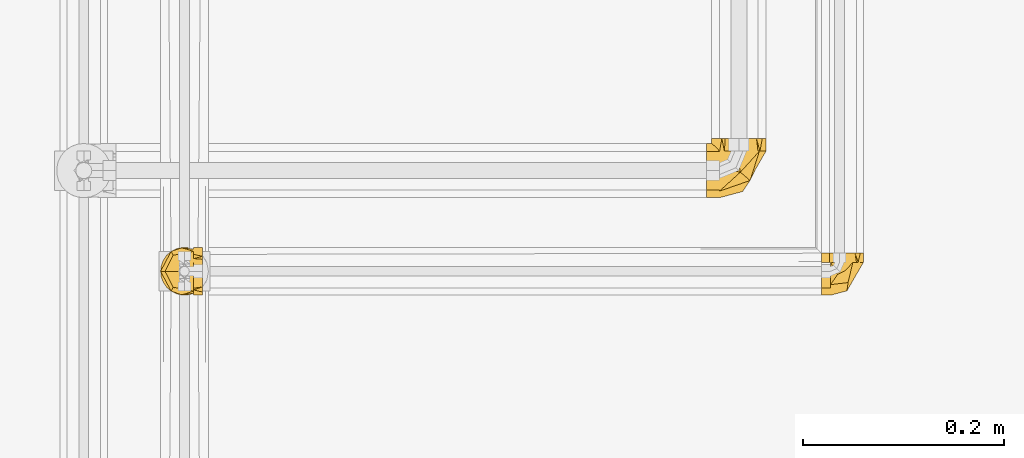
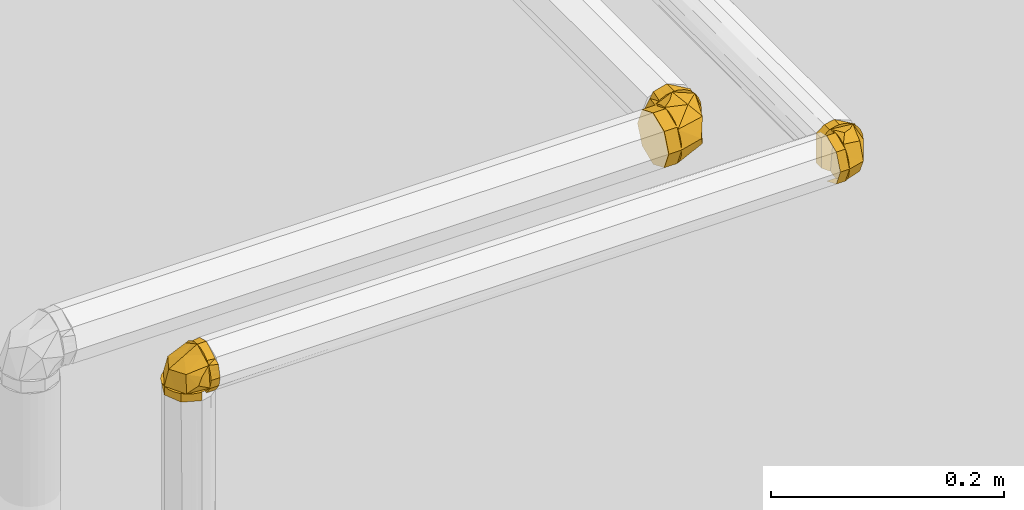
# One storey, part 329 of 652: 3 coverings.
"""IFC2X3 building model written with IfcOpenShell, lengths in millimetres."""

from ifc_helpers import new_model, entity, si_unit, converted_unit, direction, frame, origin, place, context, subcontext, project, spatial, face_set, surface_model, material, type_object, element, save


model = new_model("IFC2X3")

# Units and contexts
model_context = context("Model", 3, precision=0.01, world=frame((0.0, 0.0, 308426.39999999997)), true_north=direction((6.123233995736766e-17, 1.0)))
plan_context = context("Plan", 3, precision=0.01, world=frame((0.0, 0.0, 308426.39999999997)), true_north=direction((6.123233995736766e-17, 1.0)))
body_context = subcontext(model_context, "Body", "Model", "MODEL_VIEW")
ifc_project = project(units=[si_unit("LENGTHUNIT", "METRE", prefix="MILLI"), si_unit("AREAUNIT", "SQUARE_METRE"), si_unit("VOLUMEUNIT", "CUBIC_METRE"), converted_unit("PLANEANGLEUNIT", "DEGREE", entity("IfcPlaneAngleMeasure", 0.017453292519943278), si_unit("PLANEANGLEUNIT", "RADIAN"), dimensions=[0, 0, 0, 0, 0, 0, 0])], contexts=[model_context, plan_context])

# Site, building, storey
site_placement = place(None, origin())
site = spatial("IfcSite", under=ifc_project, at=site_placement, Name="Default", CompositionType="ELEMENT")
building_placement = place(site_placement, origin())
building = spatial("IfcBuilding", under=site, at=building_placement, CompositionType="ELEMENT")
storey_placement = place(building_placement, frame((0.0, 0.0, 1730.6999999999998)))
storey = spatial("IfcBuildingStorey", under=building, at=storey_placement, Name="EG_Produktion_FFB", CompositionType="ELEMENT", Elevation=1730.6999999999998)

# Coverings
ifc_material = material(Name="Dämmung - Armaflex-Schlauch")
covering_type = type_object("IfcCoveringType", Name="Rohrdämmung außen:Armaflex-Schlauch", PredefinedType="INSULATION")
covering_1_placement = place(storey_placement, frame((27956.694571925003, 55699.373068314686, 3271.467227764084)))
element("IfcCovering", 1, at=covering_1_placement, inside=storey, type_object=covering_type, material=ifc_material, Name="Rohrdämmung außen:Armaflex-Schlauch", ObjectType="Rohrdämmung außen:Armaflex-Schlauch", PredefinedType="INSULATION", context=body_context, shape_type="SurfaceModel", body=[
    surface_model("IfcFaceBasedSurfaceModel", [(12.766250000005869, 47.750272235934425, 9.656421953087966), (12.766250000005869, 42.79223424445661, 5.678961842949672), (12.766250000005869, 37.040242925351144, 2.9739802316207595), (12.766250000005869, 30.81456370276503, 1.6920879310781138), (12.766250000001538, 24.461836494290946, 1.904659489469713), (12.766250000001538, 18.3357751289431, 3.599859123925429), (12.766250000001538, 12.777472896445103, 6.683299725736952), (12.766250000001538, 8.096410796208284, 10.983298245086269), (12.766250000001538, 4.553225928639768, 16.26043484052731), (12.766250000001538, 2.345199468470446, 22.220883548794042), (12.766250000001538, 1.5952722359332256, 28.53277223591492), (12.766250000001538, 2.345199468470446, 34.844660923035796), (12.766250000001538, 4.553225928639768, 40.80510963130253), (12.766250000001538, 8.096410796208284, 46.08224622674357), (12.766250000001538, 12.777472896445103, 50.38224474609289), (12.766250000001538, 18.3357751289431, 53.46568534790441), (12.766250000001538, 24.461836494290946, 55.16088498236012), (12.766250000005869, 30.81456370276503, 55.373456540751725), (12.766250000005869, 37.040242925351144, 54.09156424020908), (12.766250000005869, 42.79223424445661, 51.38658262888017), (12.766250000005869, 47.750272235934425, 47.409122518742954), (17.72428799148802, 47.750272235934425, 5.678961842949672), (23.476279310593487, 47.750272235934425, 2.9739802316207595), (29.701958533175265, 47.750272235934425, 1.6920879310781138), (36.05468574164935, 47.750272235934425, 1.904659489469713), (42.180747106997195, 47.750272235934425, 3.599859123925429), (47.739049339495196, 47.750272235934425, 6.683299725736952), (52.420111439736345, 47.75027223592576, 10.983298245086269), (55.96329630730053, 47.75027223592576, 16.26043484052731), (58.17132276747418, 47.75027223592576, 22.220883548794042), (58.92125000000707, 47.75027223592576, 28.53277223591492), (58.17132276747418, 47.75027223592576, 34.844660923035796), (55.96329630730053, 47.75027223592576, 40.80510963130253), (52.420111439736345, 47.75027223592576, 46.08224622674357), (47.739049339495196, 47.750272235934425, 50.38224474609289), (42.180747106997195, 47.750272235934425, 53.46568534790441), (36.05468574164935, 47.750272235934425, 55.16088498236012), (29.701958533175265, 47.750272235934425, 55.373456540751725), (23.476279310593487, 47.750272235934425, 54.09156424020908), (17.72428799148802, 47.750272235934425, 51.38658262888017), (22.709224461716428, 39.07123100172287, 2.2761438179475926), (35.84330649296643, 7.780117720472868, 28.53268068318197), (12.765645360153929, 19.45382377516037, 6.337523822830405), (33.56437582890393, 26.951040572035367, 3.599900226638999), (43.184718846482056, 18.672476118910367, 14.285294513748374), (48.37742514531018, 29.485769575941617, 28.53268068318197), (41.06159262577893, 47.74977104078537, 6.337523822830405), (43.184718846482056, 18.672476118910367, 42.78006685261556), (33.56437582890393, 26.951040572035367, 53.46546113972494), (22.709224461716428, 39.07123100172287, 54.789217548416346), (41.06159262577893, 47.74977104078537, 50.72783754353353), (12.765645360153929, 19.45382377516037, 50.72783754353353), (0.0, 1.5952722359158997, 28.532772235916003), (0.0, 3.567725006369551, 33.29469446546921), (0.0, 5.54017777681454, 38.05661669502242), (0.0, 7.512630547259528, 42.818538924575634), (0.0, 9.485083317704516, 47.58046115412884), (0.0, 14.247005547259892, 49.552913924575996), (0.0, 19.008927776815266, 51.52536669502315), (0.0, 23.770850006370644, 53.49781946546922), (0.0, 28.532772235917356, 55.470272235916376), (0.0, 33.29469446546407, 53.49781946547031), (0.0, 38.05661669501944, 51.52536669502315), (0.0, 42.81853892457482, 49.552913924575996), (0.0, 47.5804611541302, 47.58046115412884), (0.0, 49.552913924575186, 42.818538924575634), (0.0, 51.525366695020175, 38.05661669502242), (0.0, 53.497819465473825, 33.29469446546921), (0.0, 55.47027223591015, 28.532772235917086), (0.0, 53.49781946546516, 23.770850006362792), (0.0, 51.525366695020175, 19.008927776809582), (0.0, 49.552913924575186, 14.247005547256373), (0.0, 47.5804611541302, 9.485083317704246), (0.0, 42.81853892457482, 7.512630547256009), (0.0, 38.05661669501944, 5.5401777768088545), (0.0, 33.29469446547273, 3.567725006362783), (0.0, 28.532772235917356, 1.595272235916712), (0.0, 23.77085000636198, 3.567725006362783), (0.0, 19.008927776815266, 5.5401777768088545), (0.0, 14.247005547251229, 7.512630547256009), (0.0, 9.485083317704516, 9.485083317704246), (0.0, 7.512630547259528, 14.247005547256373), (0.0, 5.54017777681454, 19.008927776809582), (0.0, 3.567725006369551, 23.770850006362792), (12.766250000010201, 1.5952722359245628, 28.532772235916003), (12.766250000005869, 3.567725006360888, 23.770850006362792), (12.766250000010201, 5.54017777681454, 19.008927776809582), (12.766250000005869, 7.512630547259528, 14.24700554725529), (12.766250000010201, 9.48508331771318, 9.485083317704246), (12.766250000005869, 15.253472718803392, 7.095738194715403), (12.766250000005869, 21.02186211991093, 4.7063930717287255), (12.766250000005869, 28.532772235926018, 1.595272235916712), (12.766250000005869, 33.29469446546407, 3.567725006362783), (12.766250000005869, 38.05661669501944, 5.540177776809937), (12.766249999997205, 42.81853892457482, 7.512630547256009), (12.766250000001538, 47.58046115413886, 9.485083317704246), (12.766250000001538, 49.96980627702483, 15.25347271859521), (12.766250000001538, 52.35915139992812, 21.021862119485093), (12.766250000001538, 55.47027223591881, 28.532772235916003), (12.766250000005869, 53.497819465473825, 33.29469446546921), (12.766250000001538, 51.525366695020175, 38.05661669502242), (12.766250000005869, 49.552913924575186, 42.81853892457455), (12.766250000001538, 47.58046115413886, 47.58046115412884), (12.766250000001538, 41.8120717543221, 49.96980627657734), (12.766250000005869, 36.043682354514, 52.35915139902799), (12.766250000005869, 28.532772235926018, 55.470272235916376), (12.766250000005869, 23.77085000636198, 53.49781946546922), (12.766250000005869, 19.008927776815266, 51.52536669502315), (12.766250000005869, 14.247005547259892, 49.552913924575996), (12.766250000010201, 9.48508331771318, 47.58046115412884), (12.766250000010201, 7.095738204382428, 41.81207177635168), (12.766250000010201, 4.706393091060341, 36.043682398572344), (58.92125000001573, 60.51652223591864, 28.532772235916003), (55.554062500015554, 60.516522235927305, 22.700632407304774), (52.18687500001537, 60.516522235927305, 16.868492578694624), (48.819687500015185, 60.51652223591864, 11.036352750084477), (45.45250000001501, 60.51652223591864, 5.204212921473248), (38.718125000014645, 60.51652223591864, 3.3997425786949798), (31.98375000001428, 60.51652223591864, 1.595272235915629), (26.151610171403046, 60.516522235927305, 4.962459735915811), (20.319470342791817, 60.516522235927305, 8.329647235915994), (14.487330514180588, 60.516522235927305, 11.696834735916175), (8.655190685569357, 60.51652223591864, 15.064022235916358), (6.85072034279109, 60.51652223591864, 21.798397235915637), (5.046250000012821, 60.51652223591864, 28.532772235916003), (8.413437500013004, 60.516522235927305, 34.36491206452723), (11.780625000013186, 60.516522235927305, 40.197051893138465), (15.147812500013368, 60.51652223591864, 46.02919172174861), (18.51500000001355, 60.51652223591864, 51.86133155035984), (25.249375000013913, 60.51652223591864, 53.66580189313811), (31.98375000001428, 60.51652223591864, 55.470272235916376), (37.81588982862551, 60.51652223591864, 52.10308473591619), (43.64802965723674, 60.516522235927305, 48.73589723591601), (49.480169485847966, 60.51652223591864, 45.36870973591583), (55.3123093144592, 60.51652223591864, 42.00152223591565), (57.116779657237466, 60.51652223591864, 35.26714723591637), (27.221827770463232, 47.75027223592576, 53.49781946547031), (22.459905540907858, 47.75027223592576, 51.52536669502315), (17.697983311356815, 47.75027223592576, 49.552913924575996), (12.936061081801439, 47.75027223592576, 47.58046115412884), (10.96360831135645, 47.75027223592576, 42.818538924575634), (8.99115554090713, 47.75027223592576, 38.05661669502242), (7.01870277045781, 47.75027223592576, 33.29469446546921), (5.046250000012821, 47.75027223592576, 28.532772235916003), (7.018702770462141, 47.75027223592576, 23.770850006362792), (8.99115554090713, 47.75027223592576, 19.008927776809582), (10.96360831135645, 47.75027223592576, 14.247005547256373), (12.936061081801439, 47.75027223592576, 9.485083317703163), (17.697983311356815, 47.75027223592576, 7.512630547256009), (22.459905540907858, 47.75027223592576, 5.5401777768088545), (27.221827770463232, 47.750272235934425, 3.567725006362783), (31.98375000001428, 47.75027223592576, 1.595272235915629), (36.74567222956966, 47.75027223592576, 3.5677250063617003), (41.507594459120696, 47.75027223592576, 5.5401777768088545), (46.26951668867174, 47.75027223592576, 7.512630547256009), (51.03143891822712, 47.75027223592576, 9.485083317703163), (53.003891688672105, 47.75027223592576, 14.247005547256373), (54.97634445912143, 47.75027223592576, 19.008927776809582), (56.948797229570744, 47.75027223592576, 23.770850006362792), (58.921250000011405, 47.75027223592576, 28.532772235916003), (56.948797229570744, 47.75027223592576, 33.29469446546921), (54.97634445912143, 47.75027223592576, 38.05661669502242), (53.003891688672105, 47.75027223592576, 42.818538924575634), (51.03143891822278, 47.75027223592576, 47.58046115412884), (46.26951668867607, 47.75027223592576, 49.552913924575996), (41.507594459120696, 47.75027223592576, 51.52536669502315), (36.74567222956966, 47.75027223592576, 53.49781946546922), (31.98375000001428, 47.75027223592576, 55.470272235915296)], [face_set([[[0, 1, 2, 3, 4, 5, 6, 7, 8, 9, 10, 11, 12, 13, 14, 15, 16, 17, 18, 19]], [[20, 21, 22, 23, 24, 25, 26, 27, 28, 29, 30, 31, 32, 33, 34, 35, 36, 37, 38, 39]], [[0, 40, 3]], [[10, 7, 41]], [[42, 3, 43]], [[40, 43, 3]], [[23, 40, 0]], [[7, 43, 44]], [[45, 41, 44]], [[7, 44, 41]], [[27, 30, 45]], [[45, 44, 27]], [[43, 27, 44]], [[43, 23, 46]], [[43, 7, 42]], [[23, 43, 40]], [[46, 27, 43]], [[13, 10, 41]], [[33, 47, 45]], [[45, 30, 33]], [[48, 47, 33]], [[49, 48, 37]], [[48, 50, 37]], [[45, 47, 41]], [[20, 49, 37]], [[47, 48, 13]], [[17, 49, 20]], [[41, 47, 13]], [[48, 17, 51]], [[48, 33, 50]], [[17, 48, 49]], [[51, 13, 48]]]), face_set([[[52, 53, 54, 55, 56, 57, 58, 59, 60, 61, 62, 63, 64, 65, 66, 67, 68, 69, 70, 71, 72, 73, 74, 75, 76, 77, 78, 79, 80, 81, 82, 83]], [[84, 85, 86, 87, 88, 89, 90, 91, 92, 93, 94, 95, 96, 97, 98, 99, 100, 101, 102, 103, 104, 105, 106, 107, 108, 109, 110, 111]], [[111, 110, 109, 56, 55, 54, 53, 52, 84]], [[56, 109, 108, 107, 106, 105, 60, 59, 58, 57]], [[104, 103, 102, 64, 63, 62, 61, 60, 105]], [[64, 102, 101, 100, 99, 98, 68, 67, 66, 65]], [[97, 96, 95, 72, 71, 70, 69, 68, 98]], [[72, 95, 94, 93, 92, 91, 76, 75, 74, 73]], [[90, 89, 88, 80, 79, 78, 77, 76, 91]], [[80, 88, 87, 86, 85, 84, 52, 83, 82, 81]]]), face_set([[[112, 113, 114, 115, 116, 117, 118, 119, 120, 121, 122, 123, 124, 125, 126, 127, 128, 129, 130, 131, 132, 133, 134, 135]], [[136, 137, 138, 139, 140, 141, 142, 143, 144, 145, 146, 147, 148, 149, 150, 151, 152, 153, 154, 155, 156, 157, 158, 159, 160, 161, 162, 163, 164, 165, 166, 167]], [[146, 121, 147]], [[118, 150, 119]], [[150, 149, 119]], [[123, 145, 144]], [[144, 143, 124]], [[121, 146, 122]], [[120, 149, 148]], [[118, 151, 150]], [[149, 120, 119]], [[124, 123, 144]], [[148, 147, 121]], [[146, 145, 122]], [[123, 122, 145]], [[120, 148, 121]], [[154, 115, 155]], [[112, 158, 113]], [[158, 157, 113]], [[117, 153, 152]], [[152, 151, 118]], [[115, 154, 116]], [[114, 157, 156]], [[112, 159, 158]], [[157, 114, 113]], [[118, 117, 152]], [[156, 155, 115]], [[154, 153, 116]], [[117, 116, 153]], [[114, 156, 115]], [[162, 133, 163]], [[130, 166, 131]], [[166, 165, 131]], [[135, 161, 160]], [[160, 159, 112]], [[133, 162, 134]], [[132, 165, 164]], [[130, 167, 166]], [[165, 132, 131]], [[112, 135, 160]], [[164, 163, 133]], [[162, 161, 134]], [[135, 134, 161]], [[132, 164, 133]], [[138, 127, 139]], [[124, 142, 125]], [[142, 141, 125]], [[129, 137, 136]], [[136, 167, 130]], [[127, 138, 128]], [[126, 141, 140]], [[124, 143, 142]], [[141, 126, 125]], [[130, 129, 136]], [[140, 139, 127]], [[138, 137, 128]], [[129, 128, 137]], [[126, 140, 127]]])]),
])
covering_2_placement = place(storey_placement, frame((28069.28940103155, 55602.54806831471, 3274.642227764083)))
element("IfcCovering", 2, at=covering_2_placement, inside=storey, type_object=covering_type, material=ifc_material, Name="Rohrdämmung außen:Armaflex-Schlauch", ObjectType="Rohrdämmung außen:Armaflex-Schlauch", PredefinedType="INSULATION", context=body_context, shape_type="SurfaceModel", body=[
    surface_model("IfcFaceBasedSurfaceModel", [(10.45842089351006, 34.28827223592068, 3.337268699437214), (10.45842089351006, 28.691896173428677, 1.8303409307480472), (10.45842089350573, 22.897179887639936, 1.72301199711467), (10.45842089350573, 17.248839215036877, 3.0216666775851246), (10.45842089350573, 12.082882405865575, 5.64905065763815), (10.458420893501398, 7.706621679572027, 9.448866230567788), (10.458420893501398, 4.380391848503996, 14.195070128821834), (10.458420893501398, 2.3020635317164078, 19.605320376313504), (10.458420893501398, 1.5952722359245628, 25.35777223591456), (10.458420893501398, 2.3020635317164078, 31.110224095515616), (10.458420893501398, 4.380391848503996, 36.52047434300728), (10.458420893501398, 7.706621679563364, 41.26667824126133), (10.45842089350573, 12.082882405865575, 45.06649381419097), (10.45842089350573, 17.248839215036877, 47.693877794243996), (10.45842089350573, 22.897179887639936, 48.992532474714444), (10.45842089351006, 28.691896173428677, 48.88520354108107), (10.45842089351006, 34.28827223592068, 47.3782757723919), (16.054796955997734, 34.28827223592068, 1.8303409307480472), (21.849513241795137, 34.28827223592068, 1.72301199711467), (27.497853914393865, 34.28827223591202, 3.0216666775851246), (32.663810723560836, 34.28827223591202, 5.64905065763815), (37.04007144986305, 34.28827223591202, 9.448866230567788), (40.36630128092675, 34.28827223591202, 14.195070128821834), (42.444629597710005, 34.28827223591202, 19.605320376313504), (43.15142089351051, 34.28827223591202, 25.35777223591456), (42.444629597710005, 34.28827223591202, 31.110224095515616), (40.36630128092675, 34.28827223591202, 36.52047434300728), (37.04007144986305, 34.28827223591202, 41.26667824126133), (32.663810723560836, 34.28827223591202, 45.06649381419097), (27.497853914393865, 34.28827223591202, 47.693877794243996), (21.849513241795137, 34.28827223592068, 48.992532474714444), (16.054796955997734, 34.28827223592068, 48.88520354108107), (25.365500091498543, 26.168044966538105, 2.9985803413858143), (27.879300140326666, 14.150173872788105, 9.499346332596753), (21.433181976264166, 34.28847953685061, 4.479885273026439), (10.459433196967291, 6.778530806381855, 15.617577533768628), (26.804947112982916, 5.973928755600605, 25.35768068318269), (37.90659506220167, 34.28847953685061, 15.503631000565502), (35.60673544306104, 21.219509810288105, 25.35768068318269), (17.53807089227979, 22.224099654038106, 2.1399118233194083), (10.459433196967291, 23.186831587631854, 4.493256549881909), (25.365500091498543, 26.168044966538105, 47.71678102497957), (17.53807089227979, 22.224099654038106, 48.57544954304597), (27.879300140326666, 14.150173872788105, 41.21659639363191), (10.459433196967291, 6.778530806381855, 35.097783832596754), (21.433181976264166, 34.28847953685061, 46.23605745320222), (37.96938192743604, 34.28847953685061, 35.097783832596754), (34.97886679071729, 20.131204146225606, 25.35768068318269), (10.459433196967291, 23.186831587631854, 46.22210481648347), (1.4390535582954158, 25.358792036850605, 1.595177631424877), (10.459433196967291, 25.358792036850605, 1.595177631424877), (10.459433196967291, 8.555166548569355, 8.555217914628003), (1.4390535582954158, 8.555166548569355, 8.555217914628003), (10.459433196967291, 1.5974517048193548, 25.35768068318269), (1.4390535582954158, 1.5974517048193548, 25.35768068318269), (10.459433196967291, 8.555166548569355, 42.160143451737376), (1.4390535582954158, 8.555166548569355, 42.160143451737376), (10.459433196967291, 25.358792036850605, 49.120183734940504), (1.4390535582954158, 25.358792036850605, 49.120183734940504), (24.53365305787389, 43.30802223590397, 46.14995973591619), (29.678385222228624, 43.30802223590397, 43.17964723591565), (34.82311738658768, 43.30802223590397, 40.209334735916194), (39.96784955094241, 43.30802223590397, 37.23902223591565), (41.559635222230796, 43.30802223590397, 31.298397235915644), (43.151420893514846, 43.30802223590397, 25.35777223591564), (40.18110839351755, 43.30802223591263, 20.213040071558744), (37.21079589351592, 43.30802223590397, 15.06830790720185), (34.24048339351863, 43.30802223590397, 9.923575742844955), (31.270170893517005, 43.30802223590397, 4.7788435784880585), (25.329545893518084, 43.30802223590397, 3.1870579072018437), (19.388920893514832, 43.30802223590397, 1.595272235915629), (14.510241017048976, 43.30802223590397, 2.64312091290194), (9.63156114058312, 43.30802223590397, 3.690969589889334), (5.613416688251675, 43.30802223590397, 6.649688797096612), (1.5952722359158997, 43.30802223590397, 9.608408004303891), (1.5952722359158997, 43.30802223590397, 41.10713646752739), (5.613416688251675, 43.30802223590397, 44.06585567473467), (9.63156114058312, 43.30802223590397, 47.02457488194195), (14.510241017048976, 43.30802223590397, 48.072423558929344), (19.388920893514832, 43.30802223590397, 49.12027223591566), (9.63156114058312, 34.28827223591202, 47.024574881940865), (5.504797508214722, 34.28827223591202, 43.985875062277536), (1.5952722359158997, 34.28827223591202, 41.10713646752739), (1.5952722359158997, 34.28827223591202, 9.608408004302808), (5.613416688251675, 34.28827223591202, 6.649688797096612), (9.63156114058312, 34.28827223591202, 3.690969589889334), (14.642122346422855, 34.28827223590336, 2.614795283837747), (19.388920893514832, 34.28827223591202, 1.595272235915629), (23.589577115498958, 34.28827223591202, 3.335241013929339), (27.790233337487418, 34.28827223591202, 5.075209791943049), (31.990889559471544, 34.28827223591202, 6.8151785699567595), (36.19154578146, 34.28827223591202, 8.55514734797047), (37.9315145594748, 34.28827223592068, 12.755803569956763), (39.67148333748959, 34.28827223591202, 16.956459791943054), (41.41145211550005, 34.28827223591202, 21.157116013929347), (43.151420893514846, 34.28827223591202, 25.35777223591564), (41.41145211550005, 34.28827223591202, 29.558428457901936), (39.67148333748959, 34.28827223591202, 33.759084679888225), (37.9315145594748, 34.28827223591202, 37.95974090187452), (36.19154578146, 34.28827223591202, 42.16039712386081), (31.990889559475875, 34.28827223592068, 43.90036590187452), (27.790233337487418, 34.28827223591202, 45.640334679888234), (23.589577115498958, 34.28827223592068, 47.380303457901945), (19.388920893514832, 34.28827223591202, 49.12027223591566), (14.510241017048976, 34.28827223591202, 48.072423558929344)], [face_set([[[0, 1, 2, 3, 4, 5, 6, 7, 8, 9, 10, 11, 12, 13, 14, 15]], [[16, 17, 18, 19, 20, 21, 22, 23, 24, 25, 26, 27, 28, 29, 30, 31]], [[32, 20, 33]], [[32, 34, 20]], [[33, 35, 4]], [[35, 33, 36]], [[36, 8, 35]], [[33, 37, 38]], [[39, 4, 40, 0]], [[32, 33, 39]], [[34, 32, 0]], [[4, 39, 33]], [[38, 36, 33]], [[0, 32, 39]], [[33, 20, 37]], [[37, 24, 38]], [[41, 16, 42]], [[43, 44, 36]], [[28, 45, 41]], [[46, 43, 47]], [[44, 8, 36]], [[12, 43, 42]], [[44, 43, 12]], [[42, 16, 48]], [[28, 43, 46]], [[16, 41, 45]], [[43, 41, 42]], [[43, 36, 47]], [[47, 24, 46]], [[28, 41, 43]], [[48, 12, 42]]]), face_set([[[49, 50, 51, 52]], [[53, 54, 52, 51]], [[54, 53, 55, 56]], [[57, 58, 56, 55]]]), face_set([[[59, 60, 61, 62, 63, 64, 65, 66, 67, 68, 69, 70, 71, 72, 73, 74, 75, 76, 77, 78, 79]], [[80, 81, 82, 83, 84, 85, 86, 87, 88, 89, 90, 91, 92, 93, 94, 95, 96, 97, 98, 99, 100, 101, 102, 103, 104]], [[75, 74, 83, 82]], [[71, 70, 87, 86, 85, 72]], [[73, 72, 85, 84, 83, 74]], [[90, 67, 91]], [[64, 94, 65]], [[94, 93, 65]], [[69, 89, 88]], [[88, 87, 70]], [[67, 90, 68]], [[66, 93, 92]], [[64, 95, 94]], [[93, 66, 65]], [[70, 69, 88]], [[92, 91, 67]], [[90, 89, 68]], [[69, 68, 89]], [[66, 92, 67]], [[98, 61, 99]], [[79, 102, 59]], [[102, 101, 59]], [[63, 97, 96]], [[96, 95, 64]], [[61, 98, 62]], [[60, 101, 100]], [[79, 103, 102]], [[101, 60, 59]], [[64, 63, 96]], [[100, 99, 61]], [[98, 97, 62]], [[63, 62, 97]], [[60, 100, 61]], [[76, 75, 82, 81, 80, 77]], [[78, 77, 80, 104, 103, 79]]])]),
])
covering_3_placement = place(storey_placement, frame((27412.893166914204, 55602.5480683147, 3280.6110791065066)))
element("IfcCovering", 3, at=covering_3_placement, inside=storey, type_object=covering_type, material=ifc_material, Name="Rohrdämmung außen:Armaflex-Schlauch", ObjectType="Rohrdämmung außen:Armaflex-Schlauch", PredefinedType="INSULATION", context=body_context, shape_type="SurfaceModel", body=[
    surface_model("IfcFaceBasedSurfaceModel", [(34.28827223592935, 3.3372686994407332, 10.458420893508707), (28.691896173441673, 1.8303409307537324, 10.458420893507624), (22.897179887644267, 1.7230119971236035, 10.458420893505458), (17.248839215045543, 3.0216666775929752, 10.458420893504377), (12.08288240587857, 5.649050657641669, 10.458420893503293), (7.706621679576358, 9.44886623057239, 10.45842089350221), (4.380391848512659, 14.195070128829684, 10.458420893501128), (2.3020635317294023, 19.605320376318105, 10.458420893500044), (1.5952722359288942, 25.357772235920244, 10.458420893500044), (2.3020635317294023, 31.110224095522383, 10.458420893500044), (4.380391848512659, 36.520474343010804, 10.458420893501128), (7.706621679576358, 41.266678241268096, 10.45842089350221), (12.08288240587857, 45.066493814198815, 10.458420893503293), (17.248839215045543, 47.69387779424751, 10.458420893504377), (22.897179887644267, 48.99253247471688, 10.458420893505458), (28.691896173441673, 48.88520354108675, 10.458420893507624), (34.28827223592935, 47.37827577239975, 10.458420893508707), (34.28827223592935, 1.8303409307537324, 16.054796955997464), (34.288272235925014, 1.7230119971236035, 21.84951324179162), (34.288272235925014, 3.0216666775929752, 27.497853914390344), (34.288272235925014, 5.649050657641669, 32.66381072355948), (34.28827223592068, 9.44886623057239, 37.04007144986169), (34.28827223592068, 14.195070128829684, 40.36630128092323), (34.28827223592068, 19.605320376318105, 42.444629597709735), (34.28827223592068, 25.357772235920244, 43.15142089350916), (34.28827223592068, 31.110224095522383, 42.444629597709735), (34.28827223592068, 36.520474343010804, 40.36630128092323), (34.28827223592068, 41.266678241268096, 37.04007144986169), (34.288272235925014, 45.066493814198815, 32.663810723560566), (34.288272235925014, 47.69387779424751, 27.497853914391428), (34.288272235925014, 48.99253247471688, 21.84951324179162), (34.28827223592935, 48.88520354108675, 16.054796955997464), (26.166867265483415, 2.997366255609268, 25.365208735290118), (14.15132161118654, 9.499294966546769, 27.879590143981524), (34.287301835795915, 4.480996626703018, 21.43230926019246), (6.777353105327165, 15.619851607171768, 10.458560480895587), (5.97507649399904, 25.358792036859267, 26.804655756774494), (34.287301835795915, 15.503579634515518, 37.907466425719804), (21.220657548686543, 25.358792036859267, 35.60644408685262), (22.222921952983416, 2.1416045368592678, 17.53836089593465), (23.185653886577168, 4.494949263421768, 10.458560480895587), (26.166867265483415, 47.71556693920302, 25.365208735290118), (22.222921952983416, 48.57597953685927, 17.53836089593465), (14.15132161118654, 41.21828910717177, 27.879590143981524), (6.777353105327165, 35.097732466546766, 10.458560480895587), (34.287301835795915, 46.236587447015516, 21.43230926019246), (34.287301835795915, 35.097732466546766, 37.968509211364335), (20.13235188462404, 25.358792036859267, 34.977994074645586), (23.185653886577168, 46.22263481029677, 10.458560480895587), (25.357614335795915, 1.5974517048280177, 1.4387622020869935), (25.357614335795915, 1.5974517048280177, 10.458560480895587), (8.553988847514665, 8.555166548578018, 10.458560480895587), (8.553988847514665, 8.555166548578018, 1.4387622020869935), (1.5962740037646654, 25.358792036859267, 10.458560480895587), (1.5962740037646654, 25.358792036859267, 1.4387622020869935), (8.553988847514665, 42.16241752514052, 10.458560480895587), (8.553988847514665, 42.16241752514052, 1.4387622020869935), (25.357614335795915, 49.120132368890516, 10.458560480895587), (25.357614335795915, 49.120132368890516, 1.4387622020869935), (43.30802223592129, 46.14995973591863, 24.533653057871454), (43.30802223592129, 43.179647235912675, 29.678385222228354), (43.30802223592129, 40.20933473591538, 34.823117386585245), (43.308022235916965, 37.239022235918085, 39.96784955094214), (43.308022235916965, 31.298397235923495, 41.55963522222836), (43.308022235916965, 25.357772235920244, 43.151420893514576), (43.30802223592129, 20.213040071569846, 40.18110839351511), (43.30802223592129, 15.068307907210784, 37.21079589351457), (43.30802223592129, 9.92357574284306, 34.240483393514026), (43.308022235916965, 4.778843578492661, 31.270170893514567), (43.308022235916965, 3.1870579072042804, 25.329545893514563), (43.308022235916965, 1.5952722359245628, 19.38892089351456), (43.30802223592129, 2.643120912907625, 14.510241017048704), (43.308022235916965, 3.690969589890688, 9.631561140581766), (43.308022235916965, 6.649688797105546, 5.613416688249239), (43.308022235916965, 9.608408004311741, 1.595272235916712), (43.308022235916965, 41.10713646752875, 1.595272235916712), (43.30802223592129, 44.06585567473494, 5.613416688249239), (43.308022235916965, 47.024574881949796, 9.631561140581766), (43.308022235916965, 48.07242355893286, 14.510241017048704), (43.308022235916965, 49.12027223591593, 19.38892089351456), (34.28827223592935, 42.160397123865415, 36.19154578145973), (34.28827223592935, 43.90036590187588, 31.99088955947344), (34.28827223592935, 45.64033467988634, 27.790233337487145), (34.28827223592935, 47.380303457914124, 23.589577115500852), (34.28827223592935, 49.12027223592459, 19.38892089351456), (34.28827223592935, 48.07242355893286, 14.510241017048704), (34.28827223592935, 47.024574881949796, 9.631561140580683), (34.28827223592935, 43.985875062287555, 5.504797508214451), (34.28827223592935, 41.10713646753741, 1.595272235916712), (34.28827223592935, 9.608408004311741, 1.595272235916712), (34.28827223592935, 6.649688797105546, 5.613416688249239), (34.28827223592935, 3.6909695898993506, 9.631561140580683), (34.28827223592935, 2.6147952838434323, 14.64212234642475), (34.28827223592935, 1.5952722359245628, 19.38892089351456), (34.28827223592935, 3.335241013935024, 23.589577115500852), (34.28827223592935, 5.075209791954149, 27.790233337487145), (34.28827223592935, 6.81517856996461, 31.99088955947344), (34.28827223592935, 8.55514734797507, 36.19154578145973), (34.28827223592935, 12.755803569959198, 37.93151455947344), (34.28827223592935, 16.956459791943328, 39.67148333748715), (34.28827223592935, 21.157116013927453, 41.411452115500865), (34.28827223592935, 25.357772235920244, 43.151420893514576), (34.28827223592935, 29.55842845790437, 41.411452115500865), (34.28827223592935, 33.759084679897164, 39.67148333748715), (34.28827223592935, 37.95974090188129, 37.93151455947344)], [face_set([[[0, 1, 2, 3, 4, 5, 6, 7, 8, 9, 10, 11, 12, 13, 14, 15]], [[16, 17, 18, 19, 20, 21, 22, 23, 24, 25, 26, 27, 28, 29, 30, 31]], [[32, 20, 33]], [[32, 34, 20]], [[33, 35, 4]], [[35, 33, 36]], [[36, 8, 35]], [[33, 37, 38]], [[39, 4, 40]], [[32, 33, 39]], [[34, 32, 0]], [[4, 39, 33]], [[38, 36, 33]], [[0, 32, 39]], [[33, 20, 37]], [[37, 24, 38]], [[0, 39, 40]], [[41, 16, 42]], [[43, 44, 36]], [[28, 45, 41]], [[46, 43, 47]], [[44, 8, 36]], [[12, 43, 42]], [[44, 43, 12]], [[42, 16, 48]], [[28, 43, 46]], [[16, 41, 45]], [[43, 41, 42]], [[43, 36, 47]], [[47, 24, 46]], [[28, 41, 43]], [[48, 12, 42]]]), face_set([[[49, 50, 51, 52]], [[53, 54, 52, 51]], [[54, 53, 55, 56]], [[57, 58, 56, 55]]]), face_set([[[59, 60, 61, 62, 63, 64, 65, 66, 67, 68, 69, 70, 71, 72, 73, 74, 75, 76, 77, 78, 79]], [[80, 81, 82, 83, 84, 85, 86, 87, 88, 89, 90, 91, 92, 93, 94, 95, 96, 97, 98, 99, 100, 101, 102, 103, 104]], [[75, 74, 89, 88]], [[71, 70, 93, 92, 91, 72]], [[73, 72, 91, 90, 89, 74]], [[96, 67, 97]], [[64, 100, 65]], [[100, 99, 65]], [[69, 95, 94]], [[94, 93, 70]], [[67, 96, 68]], [[66, 99, 98]], [[64, 101, 100]], [[99, 66, 65]], [[70, 69, 94]], [[98, 97, 67]], [[96, 95, 68]], [[69, 68, 95]], [[66, 98, 67]], [[104, 61, 80]], [[79, 83, 59]], [[83, 82, 59]], [[63, 103, 102]], [[102, 101, 64]], [[61, 104, 62]], [[60, 82, 81]], [[79, 84, 83]], [[82, 60, 59]], [[64, 63, 102]], [[81, 80, 61]], [[104, 103, 62]], [[63, 62, 103]], [[60, 81, 61]], [[76, 75, 88, 87, 86, 77]], [[78, 77, 86, 85, 84, 79]]])]),
])

save(model, "model.ifc")
